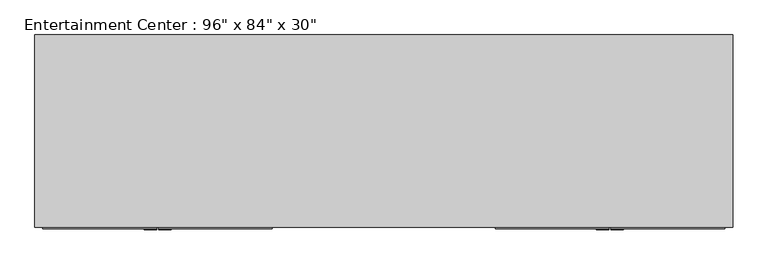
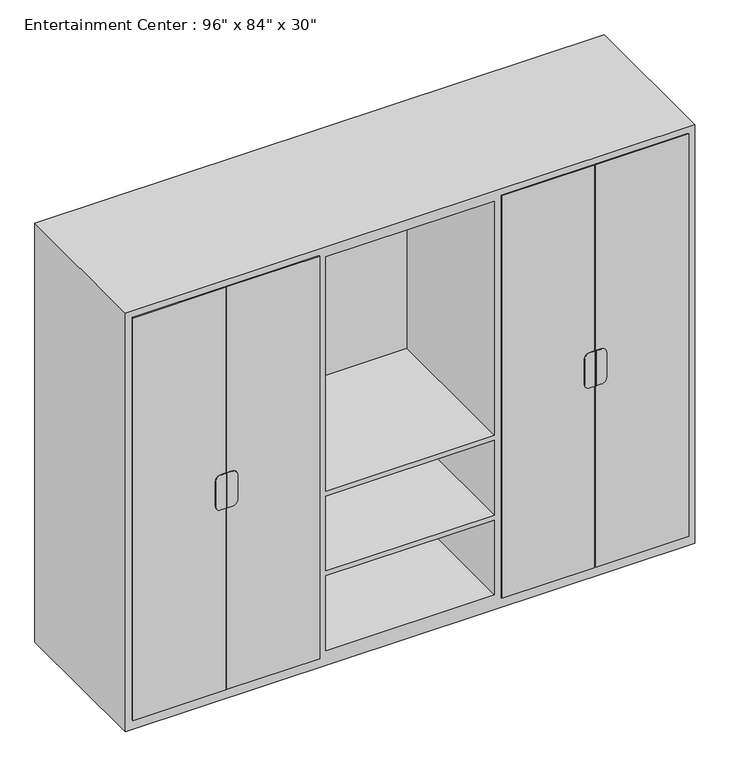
"""IFC4 building model written with IfcOpenShell, lengths in millimetres: furniture geometry."""

from ifc_helpers import new_model, si_unit, point, frame, frame_2d, origin, place, context, project, spatial, polyline, circle_curve, trimmed, segment, composite_curve, outline, extrude, faceted_brep, source, transform, mapped, element, save


def furniture_59f9536b(model_context):
    return source(origin(), model_context, "Body", "SolidModel", [
        faceted_brep([(1371.6, -781.05, 0.0), (1371.6, -781.05, 2133.6), (-1371.6, -781.05, 2133.6), (-1371.6, -781.05, 0.0), (-457.2, -781.05, 2082.8), (-457.2, -781.05, 1612.9), (-1320.8, -781.05, 1612.9), (-1320.8, -781.05, 2082.8), (-457.2, -781.05, 76.2), (-1320.8, -781.05, 76.2), (-1320.8, -781.05, 520.7), (-457.2, -781.05, 520.7), (1320.8, -781.05, 1612.9), (457.2, -781.05, 1612.9), (457.2, -781.05, 2082.8), (1320.8, -781.05, 2082.8), (-406.4, -781.05, 889.0), (-406.4, -781.05, 2082.8), (406.4, -781.05, 2082.8), (406.4, -781.05, 889.0), (406.4, -781.05, 76.2), (-406.4, -781.05, 76.2), (-406.4, -781.05, 457.2), (406.4, -781.05, 457.2), (1320.8, -781.05, 76.2), (457.2, -781.05, 76.2), (457.2, -781.05, 520.7), (1320.8, -781.05, 520.7), (-1320.8, -781.05, 546.1), (-1320.8, -781.05, 1054.1), (-457.2, -781.05, 1054.1), (-457.2, -781.05, 546.1), (-457.2, -781.05, 1587.5), (-457.2, -781.05, 1079.5), (-1320.8, -781.05, 1079.5), (-1320.8, -781.05, 1587.5), (457.2, -781.05, 1587.5), (1320.8, -781.05, 1587.5), (1320.8, -781.05, 1079.5), (457.2, -781.05, 1079.5), (457.2, -781.05, 1054.1), (1320.8, -781.05, 1054.1), (1320.8, -781.05, 546.1), (457.2, -781.05, 546.1), (406.4, -781.05, 482.6), (-406.4, -781.05, 482.6), (-406.4, -781.05, 863.6), (406.4, -781.05, 863.6), (1371.6, -25.4, 0.0), (-1371.6, -25.4, 0.0), (-1371.6, -25.4, 2133.6), (1371.6, -25.4, 2133.6), (-457.2, -50.8, 2082.8), (-457.2, -50.8, 1612.9), (-1320.8, -50.8, 1612.9), (-1320.8, -50.8, 2082.8), (-457.2, -50.8, 76.2), (-1320.8, -50.8, 76.2), (-1320.8, -50.8, 520.7), (-457.2, -50.8, 520.7), (1320.8, -50.8, 1612.9), (457.2, -50.8, 1612.9), (457.2, -50.8, 2082.8), (1320.8, -50.8, 2082.8), (-406.4, -50.8, 889.0), (-406.4, -50.8, 2082.8), (406.4, -50.8, 2082.8), (406.4, -50.8, 889.0), (406.4, -50.8, 76.2), (-406.4, -50.8, 76.2), (-406.4, -50.8, 457.2), (406.4, -50.8, 457.2), (1320.8, -50.8, 76.2), (457.2, -50.8, 76.2), (457.2, -50.8, 520.7), (1320.8, -50.8, 520.7), (-1320.8, -50.8, 546.1), (-1320.8, -50.8, 1054.1), (-457.2, -50.8, 1054.1), (-457.2, -50.8, 546.1), (-457.2, -50.8, 1587.5), (-457.2, -50.8, 1079.5), (-1320.8, -50.8, 1079.5), (-1320.8, -50.8, 1587.5), (457.2, -50.8, 1587.5), (1320.8, -50.8, 1587.5), (1320.8, -50.8, 1079.5), (457.2, -50.8, 1079.5), (457.2, -50.8, 1054.1), (1320.8, -50.8, 1054.1), (1320.8, -50.8, 546.1), (457.2, -50.8, 546.1), (406.4, -50.8, 482.6), (-406.4, -50.8, 482.6), (-406.4, -50.8, 863.6), (406.4, -50.8, 863.6)], [[[0, 1, 2, 3], [4, 5, 6, 7], [8, 9, 10, 11], [12, 13, 14, 15], [16, 17, 18, 19], [20, 21, 22, 23], [24, 25, 26, 27], [28, 29, 30, 31], [32, 33, 34, 35], [36, 37, 38, 39], [40, 41, 42, 43], [44, 45, 46, 47]], [[48, 49, 50, 51]], [[1, 0, 48, 51]], [[2, 1, 51, 50]], [[3, 2, 50, 49]], [[0, 3, 49, 48]], [[5, 4, 52, 53]], [[6, 5, 53, 54]], [[7, 6, 54, 55]], [[4, 7, 55, 52]], [[9, 8, 56, 57]], [[10, 9, 57, 58]], [[11, 10, 58, 59]], [[8, 11, 59, 56]], [[13, 12, 60, 61]], [[14, 13, 61, 62]], [[15, 14, 62, 63]], [[12, 15, 63, 60]], [[17, 16, 64, 65]], [[18, 17, 65, 66]], [[19, 18, 66, 67]], [[16, 19, 67, 64]], [[21, 20, 68, 69]], [[22, 21, 69, 70]], [[23, 22, 70, 71]], [[20, 23, 71, 68]], [[25, 24, 72, 73]], [[26, 25, 73, 74]], [[27, 26, 74, 75]], [[24, 27, 75, 72]], [[29, 28, 76, 77]], [[30, 29, 77, 78]], [[31, 30, 78, 79]], [[28, 31, 79, 76]], [[33, 32, 80, 81]], [[34, 33, 81, 82]], [[35, 34, 82, 83]], [[32, 35, 83, 80]], [[37, 36, 84, 85]], [[38, 37, 85, 86]], [[39, 38, 86, 87]], [[36, 39, 87, 84]], [[41, 40, 88, 89]], [[42, 41, 89, 90]], [[43, 42, 90, 91]], [[40, 43, 91, 88]], [[45, 44, 92, 93]], [[46, 45, 93, 94]], [[47, 46, 94, 95]], [[44, 47, 95, 92]], [[53, 52, 55, 54]], [[57, 56, 59, 58]], [[61, 60, 63, 62]], [[65, 64, 67, 66]], [[69, 68, 71, 70]], [[73, 72, 75, 74]], [[77, 76, 79, 78]], [[81, 80, 83, 82]], [[85, 84, 87, 86]], [[89, 88, 91, 90]], [[93, 92, 95, 94]]]),
        extrude(outline(composite_curve([segment(polyline([(1155.7, -861.5986452), (1155.7, -885.825), (977.9, -885.825), (977.9, -861.5986452)]), True, "CONTINUOUS"), segment(trimmed(circle_curve(frame_2d((1003.3, -861.5986452)), 25.4), [point((977.9, -861.5986452))], [point((1003.3, -836.1986452))], False, "CARTESIAN"), True, "CONTINUOUS"), segment(polyline([(1003.3, -836.1986452), (1130.3, -836.1986452)]), True, "CONTINUOUS"), segment(trimmed(circle_curve(frame_2d((1130.3, -861.5986452)), 25.4), [point((1130.3, -836.1986452))], [point((1155.7, -861.5986452))], False, "CARTESIAN"), True, "CONTINUOUS")], self_intersect=False)), frame((0.0, -790.575, 0.0), z_axis=(0.0, 1.0, 0.0), x_axis=(0.0, 0.0, 1.0)), (0.0, 0.0, 1.0), 3.175),
        extrude(outline(composite_curve([segment(trimmed(circle_curve(frame_2d((1130.3, -916.78125)), 25.4), [point((1155.7, -916.78125))], [point((1130.3, -942.18125))], False, "CARTESIAN"), True, "CONTINUOUS"), segment(polyline([(1130.3, -942.18125), (1003.3, -942.18125)]), True, "CONTINUOUS"), segment(trimmed(circle_curve(frame_2d((1003.3, -916.78125)), 25.4), [point((1003.3, -942.18125))], [point((977.9, -916.78125))], False, "CARTESIAN"), True, "CONTINUOUS"), segment(polyline([(977.9, -916.78125), (977.9, -892.175), (1155.7, -892.175), (1155.7, -916.78125)]), True, "CONTINUOUS")], self_intersect=False)), frame((0.0, -790.575, 0.0), z_axis=(0.0, 1.0, 0.0), x_axis=(0.0, 0.0, 1.0)), (0.0, 0.0, 1.0), 3.175),
        extrude(outline(composite_curve([segment(trimmed(circle_curve(frame_2d((1130.3, 861.5986452)), 25.4), [point((1155.7, 861.5986452))], [point((1130.3, 836.1986452))], False, "CARTESIAN"), True, "CONTINUOUS"), segment(polyline([(1130.3, 836.1986452), (1003.3, 836.1986452)]), True, "CONTINUOUS"), segment(trimmed(circle_curve(frame_2d((1003.3, 861.5986452)), 25.4), [point((1003.3, 836.1986452))], [point((977.9, 861.5986452))], False, "CARTESIAN"), True, "CONTINUOUS"), segment(polyline([(977.9, 861.5986452), (977.9, 885.825), (1155.7, 885.825), (1155.7, 861.5986452)]), True, "CONTINUOUS")], self_intersect=False)), frame((0.0, -790.575, 0.0), z_axis=(0.0, 1.0, 0.0), x_axis=(0.0, 0.0, 1.0)), (0.0, 0.0, 1.0), 3.175),
        extrude(outline(composite_curve([segment(polyline([(1155.7, 916.78125), (1155.7, 892.175), (977.9, 892.175), (977.9, 916.78125)]), True, "CONTINUOUS"), segment(trimmed(circle_curve(frame_2d((1003.3, 916.78125)), 25.4), [point((977.9, 916.78125))], [point((1003.3, 942.18125))], False, "CARTESIAN"), True, "CONTINUOUS"), segment(polyline([(1003.3, 942.18125), (1130.3, 942.18125)]), True, "CONTINUOUS"), segment(trimmed(circle_curve(frame_2d((1130.3, 916.78125)), 25.4), [point((1130.3, 942.18125))], [point((1155.7, 916.78125))], False, "CARTESIAN"), True, "CONTINUOUS")], self_intersect=False)), frame((0.0, -790.575, 0.0), z_axis=(0.0, 1.0, 0.0), x_axis=(0.0, 0.0, 1.0)), (0.0, 0.0, 1.0), 3.175),
        extrude(outline(polyline([(-1339.85, -781.05), (-892.175, -781.05), (-892.175, -787.4), (-1339.85, -787.4), (-1339.85, -781.05)])), frame((0.0, 0.0, 50.8), z_axis=(0.0, 0.0, 1.0), x_axis=(1.0, 0.0, 0.0)), (0.0, 0.0, 1.0), 2051.05),
        extrude(outline(polyline([(-885.825, -781.05), (-438.15, -781.05), (-438.15, -787.4), (-885.825, -787.4), (-885.825, -781.05)])), frame((0.0, 0.0, 50.8), z_axis=(0.0, 0.0, 1.0), x_axis=(1.0, 0.0, 0.0)), (0.0, 0.0, 1.0), 2051.05),
        extrude(outline(polyline([(892.175, -781.05), (1339.85, -781.05), (1339.85, -787.4), (892.175, -787.4), (892.175, -781.05)])), frame((0.0, 0.0, 50.8), z_axis=(0.0, 0.0, 1.0), x_axis=(1.0, 0.0, 0.0)), (0.0, 0.0, 1.0), 2051.05),
        extrude(outline(polyline([(438.15, -781.05), (885.825, -781.05), (885.825, -787.4), (438.15, -787.4), (438.15, -781.05)])), frame((0.0, 0.0, 50.8), z_axis=(0.0, 0.0, 1.0), x_axis=(1.0, 0.0, 0.0)), (0.0, 0.0, 1.0), 2051.05),
    ])


if __name__ == "__main__":
    model = new_model("IFC4")
    model_context = context("Model", 3, world=origin())
    ifc_project = project(units=[si_unit("LENGTHUNIT", "METRE", prefix="MILLI")], contexts=[model_context])
    site = spatial("IfcSite", under=ifc_project)
    building = spatial("IfcBuilding", under=site)
    placement = place(None, origin())
    furniture_shape = furniture_59f9536b(model_context)
    element("IfcFurniture", 1, ObjectType="Entertainment Center : 96\" x 84\" x 30\"", at=placement, inside=building, context=model_context, shape_type="MappedRepresentation", body=[
        mapped(furniture_shape, transform((0.0, 0.0, 0.0), x_axis=(1.0, 0.0, 0.0), y_axis=(0.0, 1.0, 0.0), z_axis=(0.0, 0.0, 1.0))),
    ])
    save(model, "model.ifc")
